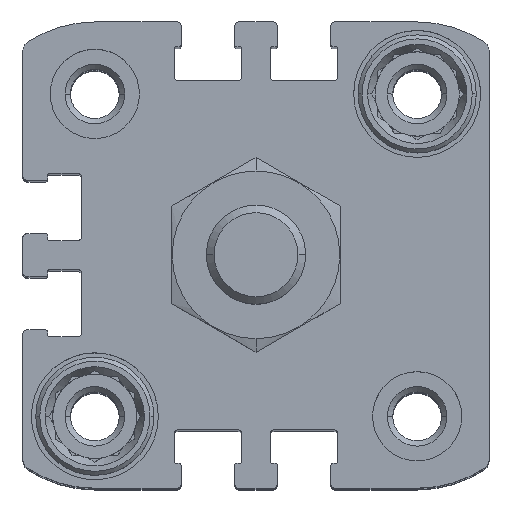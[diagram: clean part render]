
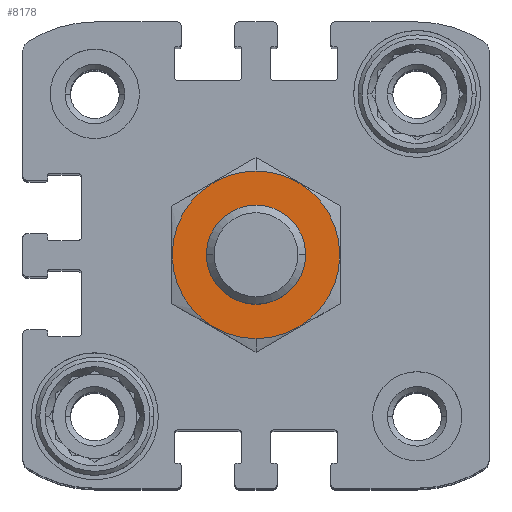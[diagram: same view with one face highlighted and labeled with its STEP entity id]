
A CAD part, top view. The second image highlights one B-rep face of the part: STEP entity #8178.
In plain terms, the highlighted planar face has unit normal (0, 0, 1).
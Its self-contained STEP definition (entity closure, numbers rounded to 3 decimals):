
#305 = FACE_OUTER_BOUND ( 'NONE', #12323, .T. ) ;
#471 = VERTEX_POINT ( 'NONE', #6153 ) ;
#623 = AXIS2_PLACEMENT_3D ( 'NONE', #14450, #11715, #1096 ) ;
#1096 = DIRECTION ( 'NONE',  ( 0., 1., 0. ) ) ;
#1348 = CIRCLE ( 'NONE', #8635, 8.45 ) ;
#1703 = CARTESIAN_POINT ( 'NONE',  ( 0., 0., 15.75 ) ) ;
#2301 = DIRECTION ( 'NONE',  ( 0., 1., 0. ) ) ;
#2767 = DIRECTION ( 'NONE',  ( 0., 1., 0. ) ) ;
#2810 = CARTESIAN_POINT ( 'NONE',  ( 0., -8.45, 15.75 ) ) ;
#3052 = VERTEX_POINT ( 'NONE', #2810 ) ;
#3570 = VERTEX_POINT ( 'NONE', #6912 ) ;
#4047 = EDGE_LOOP ( 'NONE', ( #17366, #7711 ) ) ;
#5450 = DIRECTION ( 'NONE',  ( 0., 0., -1. ) ) ;
#5642 = FACE_BOUND ( 'NONE', #4047, .T. ) ;
#5905 = AXIS2_PLACEMENT_3D ( 'NONE', #1703, #16284, #2767 ) ;
#6153 = CARTESIAN_POINT ( 'NONE',  ( 0., 8.45, 15.75 ) ) ;
#6420 = CARTESIAN_POINT ( 'NONE',  ( 0., 0., 15.75 ) ) ;
#6862 = CARTESIAN_POINT ( 'NONE',  ( 0., 0., 15.75 ) ) ;
#6883 = PLANE ( 'NONE',  #5905 ) ;
#6912 = CARTESIAN_POINT ( 'NONE',  ( 0., 5., 15.75 ) ) ;
#7711 = ORIENTED_EDGE ( 'NONE', *, *, #15879, .T. ) ;
#7723 = DIRECTION ( 'NONE',  ( 0., 0., -1. ) ) ;
#8178 = ADVANCED_FACE ( 'NONE', ( #305, #5642 ), #6883, .F. ) ;
#8573 = EDGE_CURVE ( 'NONE', #3052, #471, #11532, .T. ) ;
#8635 = AXIS2_PLACEMENT_3D ( 'NONE', #6420, #8888, #2301 ) ;
#8888 = DIRECTION ( 'NONE',  ( 0., 0., -1. ) ) ;
#9762 = EDGE_CURVE ( 'NONE', #14217, #3570, #16605, .T. ) ;
#10353 = CARTESIAN_POINT ( 'NONE',  ( 0., 0., 15.75 ) ) ;
#11252 = CARTESIAN_POINT ( 'NONE',  ( 0., -5., 15.75 ) ) ;
#11532 = CIRCLE ( 'NONE', #17148, 8.45 ) ;
#11715 = DIRECTION ( 'NONE',  ( 0., 0., -1. ) ) ;
#12323 = EDGE_LOOP ( 'NONE', ( #13807, #16777 ) ) ;
#13547 = DIRECTION ( 'NONE',  ( 0., 1., 0. ) ) ;
#13807 = ORIENTED_EDGE ( 'NONE', *, *, #17262, .F. ) ;
#13895 = CIRCLE ( 'NONE', #16970, 5. ) ;
#14217 = VERTEX_POINT ( 'NONE', #11252 ) ;
#14450 = CARTESIAN_POINT ( 'NONE',  ( 0., 0., 15.75 ) ) ;
#15801 = DIRECTION ( 'NONE',  ( 0., 1., 0. ) ) ;
#15879 = EDGE_CURVE ( 'NONE', #3570, #14217, #13895, .T. ) ;
#16284 = DIRECTION ( 'NONE',  ( 0., 0., -1. ) ) ;
#16605 = CIRCLE ( 'NONE', #623, 5. ) ;
#16777 = ORIENTED_EDGE ( 'NONE', *, *, #8573, .F. ) ;
#16970 = AXIS2_PLACEMENT_3D ( 'NONE', #10353, #7723, #15801 ) ;
#17148 = AXIS2_PLACEMENT_3D ( 'NONE', #6862, #5450, #13547 ) ;
#17262 = EDGE_CURVE ( 'NONE', #471, #3052, #1348, .T. ) ;
#17366 = ORIENTED_EDGE ( 'NONE', *, *, #9762, .T. ) ;
